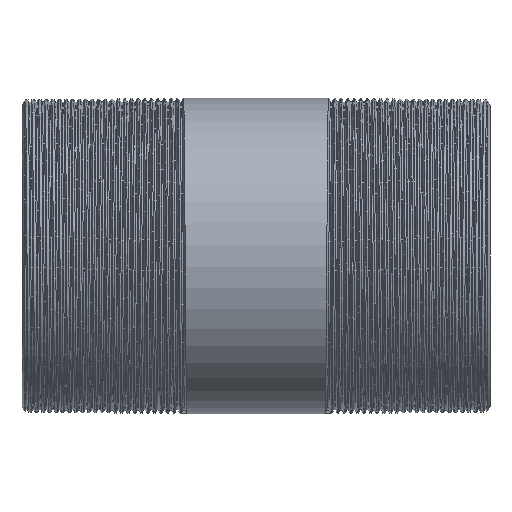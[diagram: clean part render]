
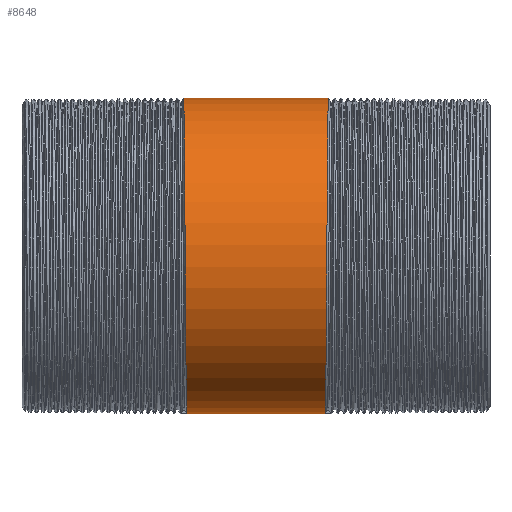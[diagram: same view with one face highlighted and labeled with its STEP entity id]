
A CAD part, front view. The second image highlights one B-rep face of the part: STEP entity #8648.
In plain terms, the highlighted cylindrical face has radius 16.85 mm (diameter 33.7 mm), a partial arc.
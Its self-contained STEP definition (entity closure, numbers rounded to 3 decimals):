
#348 = CARTESIAN_POINT ( 'NONE',  ( 7.504, -14.593, -8.425 ) ) ;
#3145 = VECTOR ( 'NONE', #7711, 1000. ) ;
#3150 = CARTESIAN_POINT ( 'NONE',  ( 7.563, -19.457, 0. ) ) ;
#3747 = CARTESIAN_POINT ( 'NONE',  ( -7.738, 0., 16.85 ) ) ;
#3847 = LINE ( 'NONE', #9350, #15232 ) ;
#3947 = AXIS2_PLACEMENT_3D ( 'NONE', #12062, #10804, #14847 ) ;
#4335 = CARTESIAN_POINT ( 'NONE',  ( 7.621, -14.593, 8.425 ) ) ;
#4836 = CARTESIAN_POINT ( 'NONE',  ( 7.738, 0., 16.85 ) ) ;
#4918 = EDGE_CURVE ( 'NONE', #7628, #7453, #3847, .T. ) ;
#5018 = DIRECTION ( 'NONE',  ( -1., 0., 0. ) ) ;
#5298 = FACE_OUTER_BOUND ( 'NONE', #5675, .T. ) ;
#5675 = EDGE_LOOP ( 'NONE', ( #8596, #9351, #8932, #9312 ) ) ;
#5717 = VERTEX_POINT ( 'NONE', #12060 ) ;
#5773 = CARTESIAN_POINT ( 'NONE',  ( 7.388, 0., -16.85 ) ) ;
#6185 = LINE ( 'NONE', #17443, #3145 ) ;
#6977 =( BOUNDED_CURVE ( )  B_SPLINE_CURVE ( 2, ( #10876, #13387, #13570, #10969, #16441, #16086, #3747 ),
 .UNSPECIFIED., .F., .T. ) 
 B_SPLINE_CURVE_WITH_KNOTS ( ( 3, 2, 2, 3 ),
 ( 0., 0.006, 0.013, 0.019 ),
 .UNSPECIFIED. ) 
 CURVE ( )  GEOMETRIC_REPRESENTATION_ITEM ( )  RATIONAL_B_SPLINE_CURVE ( ( 1., 0.866, 1., 0.866, 1., 0.866, 1. ) ) 
 REPRESENTATION_ITEM ( '' )  );
#7453 = VERTEX_POINT ( 'NONE', #16410 ) ;
#7628 = VERTEX_POINT ( 'NONE', #4836 ) ;
#7690 = EDGE_CURVE ( 'NONE', #5717, #8152, #6185, .T. ) ;
#7711 = DIRECTION ( 'NONE',  ( -1., 0., 0. ) ) ;
#8152 = VERTEX_POINT ( 'NONE', #15072 ) ;
#8596 = ORIENTED_EDGE ( 'NONE', *, *, #7690, .F. ) ;
#8648 = ADVANCED_FACE ( 'NONE', ( #5298 ), #13586, .T. ) ;
#8932 = ORIENTED_EDGE ( 'NONE', *, *, #4918, .T. ) ;
#9312 = ORIENTED_EDGE ( 'NONE', *, *, #15213, .F. ) ;
#9350 = CARTESIAN_POINT ( 'NONE',  ( -149.494, 0., 16.85 ) ) ;
#9351 = ORIENTED_EDGE ( 'NONE', *, *, #11955, .T. ) ;
#10804 = DIRECTION ( 'NONE',  ( -1., 0., 0. ) ) ;
#10876 = CARTESIAN_POINT ( 'NONE',  ( -7.388, 0., -16.85 ) ) ;
#10969 = CARTESIAN_POINT ( 'NONE',  ( -7.563, -19.457, 0. ) ) ;
#11955 = EDGE_CURVE ( 'NONE', #5717, #7628, #14339, .T. ) ;
#12060 = CARTESIAN_POINT ( 'NONE',  ( 7.388, 0., -16.85 ) ) ;
#12062 = CARTESIAN_POINT ( 'NONE',  ( -149.494, 0., 0. ) ) ;
#12715 = CARTESIAN_POINT ( 'NONE',  ( 7.679, -9.728, 16.85 ) ) ;
#13387 = CARTESIAN_POINT ( 'NONE',  ( -7.446, -9.728, -16.85 ) ) ;
#13570 = CARTESIAN_POINT ( 'NONE',  ( -7.504, -14.593, -8.425 ) ) ;
#13586 = CYLINDRICAL_SURFACE ( 'NONE', #3947, 16.85 ) ;
#14233 = CARTESIAN_POINT ( 'NONE',  ( 7.738, 0., 16.85 ) ) ;
#14339 =( BOUNDED_CURVE ( )  B_SPLINE_CURVE ( 2, ( #5773, #15495, #348, #3150, #4335, #12715, #14233 ),
 .UNSPECIFIED., .F., .T. ) 
 B_SPLINE_CURVE_WITH_KNOTS ( ( 3, 2, 2, 3 ),
 ( 0., 0.006, 0.013, 0.019 ),
 .UNSPECIFIED. ) 
 CURVE ( )  GEOMETRIC_REPRESENTATION_ITEM ( )  RATIONAL_B_SPLINE_CURVE ( ( 1., 0.866, 1., 0.866, 1., 0.866, 1. ) ) 
 REPRESENTATION_ITEM ( '' )  );
#14847 = DIRECTION ( 'NONE',  ( 0., 0., 1. ) ) ;
#15072 = CARTESIAN_POINT ( 'NONE',  ( -7.388, 0., -16.85 ) ) ;
#15213 = EDGE_CURVE ( 'NONE', #8152, #7453, #6977, .T. ) ;
#15232 = VECTOR ( 'NONE', #5018, 1000. ) ;
#15495 = CARTESIAN_POINT ( 'NONE',  ( 7.446, -9.728, -16.85 ) ) ;
#16086 = CARTESIAN_POINT ( 'NONE',  ( -7.679, -9.728, 16.85 ) ) ;
#16410 = CARTESIAN_POINT ( 'NONE',  ( -7.738, 0., 16.85 ) ) ;
#16441 = CARTESIAN_POINT ( 'NONE',  ( -7.621, -14.593, 8.425 ) ) ;
#17443 = CARTESIAN_POINT ( 'NONE',  ( -149.494, 0., -16.85 ) ) ;
